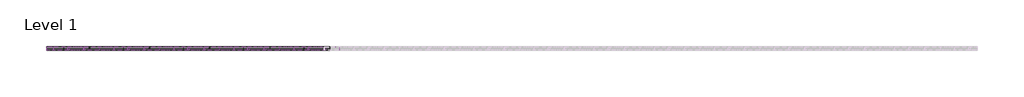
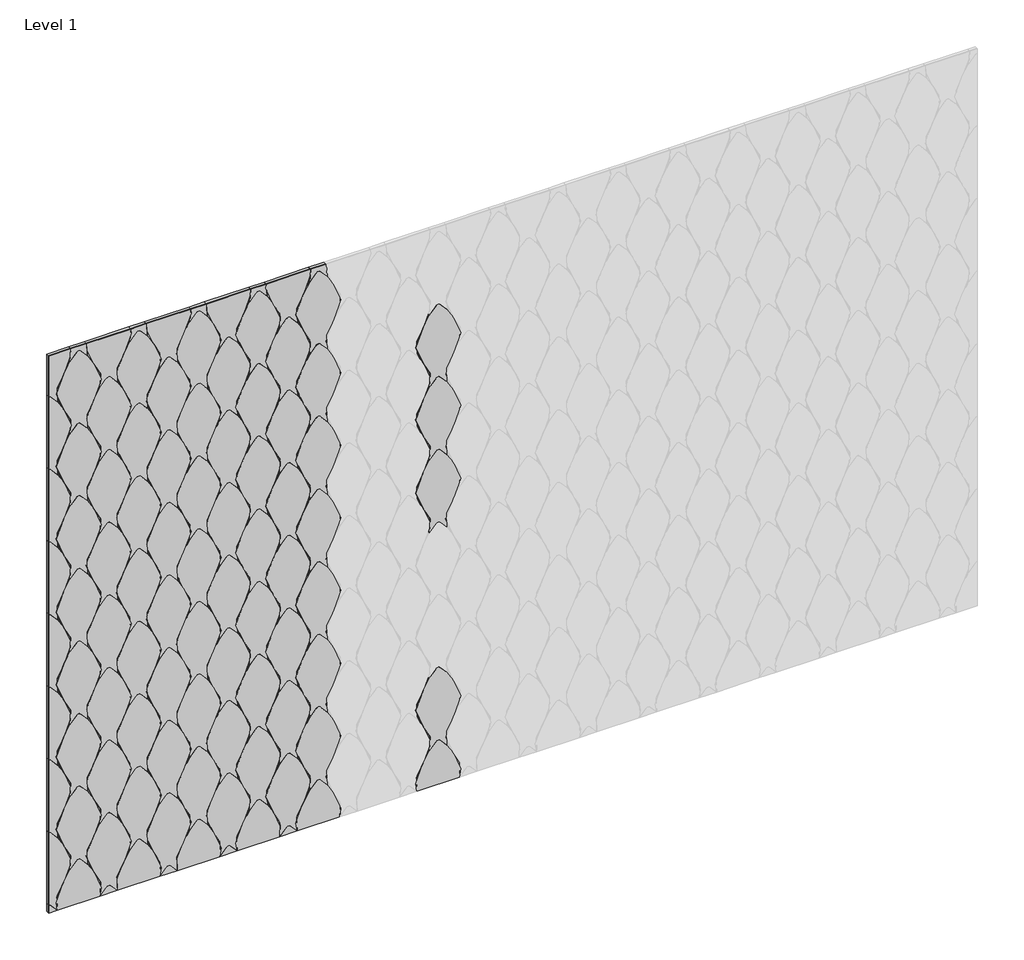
# One storey, part 1 of 3: 95 proxies.
"""IFC4 building model written with IfcOpenShell, lengths in millimetres."""

from ifc_helpers import new_model, si_unit, origin, place, context, project, spatial, transform, mapped, element, save
from components import specialty_equipment_90dfa3fd, specialty_equipment_1d57ec5c, specialty_equipment_d9d0cc40, specialty_equipment_04623bae, specialty_equipment_d667eb72, specialty_equipment_c66fb18b, specialty_equipment_58f33b70, specialty_equipment_77f5260d, specialty_equipment_34b07f8f, specialty_equipment_1d68d449, specialty_equipment_8d9a8f15, specialty_equipment_3b3f1b17, specialty_equipment_d7a9fa1d, specialty_equipment_a03a52e0, specialty_equipment_da839ed6

model = new_model("IFC4")

# Units and contexts
model_context = context("Model", 3, world=origin())
ifc_project = project(units=[si_unit("LENGTHUNIT", "METRE", prefix="MILLI")], contexts=[model_context])

# Site, building, storey
site = spatial("IfcSite", under=ifc_project)
building = spatial("IfcBuilding", under=site)
storey = spatial("IfcBuildingStorey", under=building, Name="Level 1", Elevation=0.0)

# Proxies
placement = place(None, origin())
specialty_equipment_shape = specialty_equipment_90dfa3fd(model_context)
element("IfcBuildingElementProxy", 1, Name="FilzFelt_Fish_Block : Fish Block", ObjectType="FilzFelt_Fish_Block : Fish Block", at=placement, inside=storey, context=model_context, shape_type="MappedRepresentation", body=[
    mapped(specialty_equipment_shape, transform((19600.3180418, 4010.4660665, 1941.1055095), x_axis=(1.0, 0.0, 0.0), y_axis=(0.0, 0.0, 1.0), z_axis=(0.0, -1.0, 0.0))),
])
element("IfcBuildingElementProxy", 2, Name="FilzFelt_Fish_Block : Fish Block", ObjectType="FilzFelt_Fish_Block : Fish Block", at=placement, inside=storey, context=model_context, shape_type="MappedRepresentation", body=[
    mapped(specialty_equipment_shape, transform((19600.3180418, 4010.4660665, 1666.6574563), x_axis=(1.0, 0.0, 0.0), y_axis=(0.0, 0.0, 1.0), z_axis=(0.0, -1.0, 0.0))),
])
element("IfcBuildingElementProxy", 3, Name="FilzFelt_Fish_Block : Fish Block", ObjectType="FilzFelt_Fish_Block : Fish Block", at=placement, inside=storey, context=model_context, shape_type="MappedRepresentation", body=[
    mapped(specialty_equipment_shape, transform((19600.3180418, 4010.4660665, 2215.5535626), x_axis=(1.0, 0.0, 0.0), y_axis=(0.0, 0.0, 1.0), z_axis=(0.0, -1.0, 0.0))),
])
element("IfcBuildingElementProxy", 4, Name="FilzFelt_Fish_Block : Fish Block", ObjectType="FilzFelt_Fish_Block : Fish Block", at=placement, inside=storey, context=model_context, shape_type="MappedRepresentation", body=[
    mapped(specialty_equipment_shape, transform((19600.3180418, 4010.4660665, 843.3132968), x_axis=(1.0, 0.0, 0.0), y_axis=(0.0, 0.0, 1.0), z_axis=(0.0, -1.0, 0.0))),
])
element("IfcBuildingElementProxy", 5, Name="FilzFelt_Fish_Block : Fish Block", ObjectType="FilzFelt_Fish_Block : Fish Block", at=placement, inside=storey, context=model_context, shape_type="MappedRepresentation", body=[
    mapped(specialty_equipment_shape, transform((19600.3180418, 4010.4660665, 1392.2094032), x_axis=(1.0, 0.0, 0.0), y_axis=(0.0, 0.0, 1.0), z_axis=(0.0, -1.0, 0.0))),
])
element("IfcBuildingElementProxy", 6, Name="FilzFelt_Fish_Block : Fish Block", ObjectType="FilzFelt_Fish_Block : Fish Block", at=placement, inside=storey, context=model_context, shape_type="MappedRepresentation", body=[
    mapped(specialty_equipment_shape, transform((19600.3180418, 4010.4660665, 1117.76135), x_axis=(1.0, 0.0, 0.0), y_axis=(0.0, 0.0, 1.0), z_axis=(0.0, -1.0, 0.0))),
])
element("IfcBuildingElementProxy", 7, Name="FilzFelt_Fish_Block : Fish Block", ObjectType="FilzFelt_Fish_Block : Fish Block", at=placement, inside=storey, context=model_context, shape_type="MappedRepresentation", body=[
    mapped(specialty_equipment_shape, transform((19707.4153332, 4010.4660665, 2352.7775892), x_axis=(1.0, 0.0, 0.0), y_axis=(0.0, 0.0, 1.0), z_axis=(0.0, -1.0, 0.0))),
])
element("IfcBuildingElementProxy", 8, Name="FilzFelt_Fish_Block : Fish Block", ObjectType="FilzFelt_Fish_Block : Fish Block", at=placement, inside=storey, context=model_context, shape_type="MappedRepresentation", body=[
    mapped(specialty_equipment_shape, transform((19707.4153332, 4010.4660665, 2078.329536), x_axis=(1.0, 0.0, 0.0), y_axis=(0.0, 0.0, 1.0), z_axis=(0.0, -1.0, 0.0))),
])
element("IfcBuildingElementProxy", 9, Name="FilzFelt_Fish_Block : Fish Block", ObjectType="FilzFelt_Fish_Block : Fish Block", at=placement, inside=storey, context=model_context, shape_type="MappedRepresentation", body=[
    mapped(specialty_equipment_shape, transform((19707.4153332, 4010.4660665, 1803.8814829), x_axis=(1.0, 0.0, 0.0), y_axis=(0.0, 0.0, 1.0), z_axis=(0.0, -1.0, 0.0))),
])
element("IfcBuildingElementProxy", 10, Name="FilzFelt_Fish_Block : Fish Block", ObjectType="FilzFelt_Fish_Block : Fish Block", at=placement, inside=storey, context=model_context, shape_type="MappedRepresentation", body=[
    mapped(specialty_equipment_shape, transform((19707.4153332, 4010.4660665, 1254.9853766), x_axis=(1.0, 0.0, 0.0), y_axis=(0.0, 0.0, 1.0), z_axis=(0.0, -1.0, 0.0))),
])
element("IfcBuildingElementProxy", 11, Name="FilzFelt_Fish_Block : Fish Block", ObjectType="FilzFelt_Fish_Block : Fish Block", at=placement, inside=storey, context=model_context, shape_type="MappedRepresentation", body=[
    mapped(specialty_equipment_shape, transform((19707.4153332, 4010.4660665, 980.5373234), x_axis=(1.0, 0.0, 0.0), y_axis=(0.0, 0.0, 1.0), z_axis=(0.0, -1.0, 0.0))),
])
element("IfcBuildingElementProxy", 12, Name="FilzFelt_Fish_Block : Fish Block", ObjectType="FilzFelt_Fish_Block : Fish Block", at=placement, inside=storey, context=model_context, shape_type="MappedRepresentation", body=[
    mapped(specialty_equipment_shape, transform((19707.4153332, 4010.4660665, 706.0892703), x_axis=(1.0, 0.0, 0.0), y_axis=(0.0, 0.0, 1.0), z_axis=(0.0, -1.0, 0.0))),
])
element("IfcBuildingElementProxy", 13, Name="FilzFelt_Fish_Block : Fish Block", ObjectType="FilzFelt_Fish_Block : Fish Block", at=placement, inside=storey, context=model_context, shape_type="MappedRepresentation", body=[
    mapped(specialty_equipment_shape, transform((20242.9017903, 4010.4660665, 1941.1055095), x_axis=(1.0, 0.0, 0.0), y_axis=(0.0, 0.0, 1.0), z_axis=(0.0, -1.0, 0.0))),
])
element("IfcBuildingElementProxy", 14, Name="FilzFelt_Fish_Block : Fish Block", ObjectType="FilzFelt_Fish_Block : Fish Block", at=placement, inside=storey, context=model_context, shape_type="MappedRepresentation", body=[
    mapped(specialty_equipment_shape, transform((20242.9017903, 4010.4660665, 1666.6574563), x_axis=(1.0, 0.0, 0.0), y_axis=(0.0, 0.0, 1.0), z_axis=(0.0, -1.0, 0.0))),
])
element("IfcBuildingElementProxy", 15, Name="FilzFelt_Fish_Block : Fish Block", ObjectType="FilzFelt_Fish_Block : Fish Block", at=placement, inside=storey, context=model_context, shape_type="MappedRepresentation", body=[
    mapped(specialty_equipment_shape, transform((20242.9017903, 4010.4660665, 843.3132968), x_axis=(1.0, 0.0, 0.0), y_axis=(0.0, 0.0, 1.0), z_axis=(0.0, -1.0, 0.0))),
])
element("IfcBuildingElementProxy", 16, Name="FilzFelt_Fish_Block : Fish Block", ObjectType="FilzFelt_Fish_Block : Fish Block", at=placement, inside=storey, context=model_context, shape_type="MappedRepresentation", body=[
    mapped(specialty_equipment_shape, transform((20242.9017903, 4010.4660665, 1392.2094032), x_axis=(1.0, 0.0, 0.0), y_axis=(0.0, 0.0, 1.0), z_axis=(0.0, -1.0, 0.0))),
])
element("IfcBuildingElementProxy", 17, Name="FilzFelt_Fish_Block : Fish Block", ObjectType="FilzFelt_Fish_Block : Fish Block", at=placement, inside=storey, context=model_context, shape_type="MappedRepresentation", body=[
    mapped(specialty_equipment_shape, transform((20135.8044989, 4010.4660665, 2352.7775892), x_axis=(1.0, 0.0, 0.0), y_axis=(0.0, 0.0, 1.0), z_axis=(0.0, -1.0, 0.0))),
])
element("IfcBuildingElementProxy", 18, Name="FilzFelt_Fish_Block : Fish Block", ObjectType="FilzFelt_Fish_Block : Fish Block", at=placement, inside=storey, context=model_context, shape_type="MappedRepresentation", body=[
    mapped(specialty_equipment_shape, transform((20135.8044989, 4010.4660665, 2078.329536), x_axis=(1.0, 0.0, 0.0), y_axis=(0.0, 0.0, 1.0), z_axis=(0.0, -1.0, 0.0))),
])
element("IfcBuildingElementProxy", 19, Name="FilzFelt_Fish_Block : Fish Block", ObjectType="FilzFelt_Fish_Block : Fish Block", at=placement, inside=storey, context=model_context, shape_type="MappedRepresentation", body=[
    mapped(specialty_equipment_shape, transform((20135.8044989, 4010.4660665, 1803.8814829), x_axis=(1.0, 0.0, 0.0), y_axis=(0.0, 0.0, 1.0), z_axis=(0.0, -1.0, 0.0))),
])
element("IfcBuildingElementProxy", 20, Name="FilzFelt_Fish_Block : Fish Block", ObjectType="FilzFelt_Fish_Block : Fish Block", at=placement, inside=storey, context=model_context, shape_type="MappedRepresentation", body=[
    mapped(specialty_equipment_shape, transform((20135.8044989, 4010.4660665, 1529.4334297), x_axis=(1.0, 0.0, 0.0), y_axis=(0.0, 0.0, 1.0), z_axis=(0.0, -1.0, 0.0))),
])
element("IfcBuildingElementProxy", 21, Name="FilzFelt_Fish_Block : Fish Block", ObjectType="FilzFelt_Fish_Block : Fish Block", at=placement, inside=storey, context=model_context, shape_type="MappedRepresentation", body=[
    mapped(specialty_equipment_shape, transform((20135.8044989, 4010.4660665, 1254.9853766), x_axis=(1.0, 0.0, 0.0), y_axis=(0.0, 0.0, 1.0), z_axis=(0.0, -1.0, 0.0))),
])
element("IfcBuildingElementProxy", 22, Name="FilzFelt_Fish_Block : Fish Block", ObjectType="FilzFelt_Fish_Block : Fish Block", at=placement, inside=storey, context=model_context, shape_type="MappedRepresentation", body=[
    mapped(specialty_equipment_shape, transform((20135.8044989, 4010.4660665, 980.5373234), x_axis=(1.0, 0.0, 0.0), y_axis=(0.0, 0.0, 1.0), z_axis=(0.0, -1.0, 0.0))),
])
element("IfcBuildingElementProxy", 23, Name="FilzFelt_Fish_Block : Fish Block", ObjectType="FilzFelt_Fish_Block : Fish Block", at=placement, inside=storey, context=model_context, shape_type="MappedRepresentation", body=[
    mapped(specialty_equipment_shape, transform((20135.8044989, 4010.4660665, 706.0892703), x_axis=(1.0, 0.0, 0.0), y_axis=(0.0, 0.0, 1.0), z_axis=(0.0, -1.0, 0.0))),
])
element("IfcBuildingElementProxy", 24, Name="FilzFelt_Fish_Block : Fish Block", ObjectType="FilzFelt_Fish_Block : Fish Block", at=placement, inside=storey, context=model_context, shape_type="MappedRepresentation", body=[
    mapped(specialty_equipment_shape, transform((20885.4855388, 4010.4660665, 1941.1055095), x_axis=(1.0, 0.0, 0.0), y_axis=(0.0, 0.0, 1.0), z_axis=(0.0, -1.0, 0.0))),
])
element("IfcBuildingElementProxy", 25, Name="FilzFelt_Fish_Block : Fish Block", ObjectType="FilzFelt_Fish_Block : Fish Block", at=placement, inside=storey, context=model_context, shape_type="MappedRepresentation", body=[
    mapped(specialty_equipment_shape, transform((20885.4855388, 4010.4660665, 1666.6574563), x_axis=(1.0, 0.0, 0.0), y_axis=(0.0, 0.0, 1.0), z_axis=(0.0, -1.0, 0.0))),
])
element("IfcBuildingElementProxy", 26, Name="FilzFelt_Fish_Block : Fish Block", ObjectType="FilzFelt_Fish_Block : Fish Block", at=placement, inside=storey, context=model_context, shape_type="MappedRepresentation", body=[
    mapped(specialty_equipment_shape, transform((20885.4855388, 4010.4660665, 2215.5535626), x_axis=(1.0, 0.0, 0.0), y_axis=(0.0, 0.0, 1.0), z_axis=(0.0, -1.0, 0.0))),
])
element("IfcBuildingElementProxy", 27, Name="FilzFelt_Fish_Block : Fish Block", ObjectType="FilzFelt_Fish_Block : Fish Block", at=placement, inside=storey, context=model_context, shape_type="MappedRepresentation", body=[
    mapped(specialty_equipment_shape, transform((20885.4855388, 4010.4660665, 843.3132968), x_axis=(1.0, 0.0, 0.0), y_axis=(0.0, 0.0, 1.0), z_axis=(0.0, -1.0, 0.0))),
])
specialty_equipment_2_shape = specialty_equipment_1d57ec5c(model_context)
element("IfcBuildingElementProxy", 28, Name="FilzFelt_Fish_Block : Fish Block", ObjectType="FilzFelt_Fish_Block : Fish Block", at=placement, inside=storey, context=model_context, shape_type="MappedRepresentation", body=[
    mapped(specialty_equipment_2_shape, transform((19600.3180418, 4010.4660665, 568.8652437), x_axis=(1.0, 0.0, 0.0), y_axis=(0.0, 0.0, 1.0), z_axis=(0.0, -1.0, 0.0))),
])
element("IfcBuildingElementProxy", 29, Name="FilzFelt_Fish_Block : Fish Block", ObjectType="FilzFelt_Fish_Block : Fish Block", at=placement, inside=storey, context=model_context, shape_type="MappedRepresentation", body=[
    mapped(specialty_equipment_2_shape, transform((20242.9017903, 4010.4660665, 568.8652437), x_axis=(1.0, 0.0, 0.0), y_axis=(0.0, 0.0, 1.0), z_axis=(0.0, -1.0, 0.0))),
])
element("IfcBuildingElementProxy", 30, Name="FilzFelt_Fish_Block : Fish Block", ObjectType="FilzFelt_Fish_Block : Fish Block", at=placement, inside=storey, context=model_context, shape_type="MappedRepresentation", body=[
    mapped(specialty_equipment_2_shape, transform((20885.4855388, 4010.4660665, 568.8652437), x_axis=(1.0, 0.0, 0.0), y_axis=(0.0, 0.0, 1.0), z_axis=(0.0, -1.0, 0.0))),
])
specialty_equipment_3_shape = specialty_equipment_d9d0cc40(model_context)
element("IfcBuildingElementProxy", 31, Name="FilzFelt_Fish_Block : Fish Block", ObjectType="FilzFelt_Fish_Block : Fish Block", at=placement, inside=storey, context=model_context, shape_type="MappedRepresentation", body=[
    mapped(specialty_equipment_3_shape, transform((19600.3180418, 4010.4660665, 2764.4496689), x_axis=(1.0, 0.0, 0.0), y_axis=(0.0, 0.0, 1.0), z_axis=(0.0, -1.0, 0.0))),
])
element("IfcBuildingElementProxy", 32, Name="FilzFelt_Fish_Block : Fish Block", ObjectType="FilzFelt_Fish_Block : Fish Block", at=placement, inside=storey, context=model_context, shape_type="MappedRepresentation", body=[
    mapped(specialty_equipment_3_shape, transform((20242.9017903, 4010.4660665, 2764.4496689), x_axis=(1.0, 0.0, 0.0), y_axis=(0.0, 0.0, 1.0), z_axis=(0.0, -1.0, 0.0))),
])
specialty_equipment_4_shape = specialty_equipment_04623bae(model_context)
element("IfcBuildingElementProxy", 33, Name="FilzFelt_Fish_Block : Fish Block", ObjectType="FilzFelt_Fish_Block : Fish Block", at=placement, inside=storey, context=model_context, shape_type="MappedRepresentation", body=[
    mapped(specialty_equipment_4_shape, transform((19493.2207503, 4010.4660665, 2627.2256423), x_axis=(1.0, 0.0, 0.0), y_axis=(0.0, 0.0, 1.0), z_axis=(0.0, -1.0, 0.0))),
])
specialty_equipment_5_shape = specialty_equipment_d667eb72(model_context)
element("IfcBuildingElementProxy", 34, Name="FilzFelt_Fish_Block : Fish Block", ObjectType="FilzFelt_Fish_Block : Fish Block", at=placement, inside=storey, context=model_context, shape_type="MappedRepresentation", body=[
    mapped(specialty_equipment_5_shape, transform((19493.2207503, 4010.4660665, 2352.7775892), x_axis=(1.0, 0.0, 0.0), y_axis=(0.0, 0.0, 1.0), z_axis=(0.0, -1.0, 0.0))),
])
element("IfcBuildingElementProxy", 35, Name="FilzFelt_Fish_Block : Fish Block", ObjectType="FilzFelt_Fish_Block : Fish Block", at=placement, inside=storey, context=model_context, shape_type="MappedRepresentation", body=[
    mapped(specialty_equipment_5_shape, transform((19493.2207503, 4010.4660665, 2078.329536), x_axis=(1.0, 0.0, 0.0), y_axis=(0.0, 0.0, 1.0), z_axis=(0.0, -1.0, 0.0))),
])
element("IfcBuildingElementProxy", 36, Name="FilzFelt_Fish_Block : Fish Block", ObjectType="FilzFelt_Fish_Block : Fish Block", at=placement, inside=storey, context=model_context, shape_type="MappedRepresentation", body=[
    mapped(specialty_equipment_5_shape, transform((19493.2207503, 4010.4660665, 1529.4334297), x_axis=(1.0, 0.0, 0.0), y_axis=(0.0, 0.0, 1.0), z_axis=(0.0, -1.0, 0.0))),
])
element("IfcBuildingElementProxy", 37, Name="FilzFelt_Fish_Block : Fish Block", ObjectType="FilzFelt_Fish_Block : Fish Block", at=placement, inside=storey, context=model_context, shape_type="MappedRepresentation", body=[
    mapped(specialty_equipment_5_shape, transform((19493.2207503, 4010.4660665, 1254.9853766), x_axis=(1.0, 0.0, 0.0), y_axis=(0.0, 0.0, 1.0), z_axis=(0.0, -1.0, 0.0))),
])
element("IfcBuildingElementProxy", 38, Name="FilzFelt_Fish_Block : Fish Block", ObjectType="FilzFelt_Fish_Block : Fish Block", at=placement, inside=storey, context=model_context, shape_type="MappedRepresentation", body=[
    mapped(specialty_equipment_5_shape, transform((19493.2207503, 4010.4660665, 980.5373234), x_axis=(1.0, 0.0, 0.0), y_axis=(0.0, 0.0, 1.0), z_axis=(0.0, -1.0, 0.0))),
])
element("IfcBuildingElementProxy", 39, Name="FilzFelt_Fish_Block : Fish Block", ObjectType="FilzFelt_Fish_Block : Fish Block", at=placement, inside=storey, context=model_context, shape_type="MappedRepresentation", body=[
    mapped(specialty_equipment_5_shape, transform((19493.2207503, 4010.4660665, 706.0892703), x_axis=(1.0, 0.0, 0.0), y_axis=(0.0, 0.0, 1.0), z_axis=(0.0, -1.0, 0.0))),
])
element("IfcBuildingElementProxy", 40, Name="FilzFelt_Fish_Block : Fish Block", ObjectType="FilzFelt_Fish_Block : Fish Block", at=placement, inside=storey, context=model_context, shape_type="MappedRepresentation", body=[
    mapped(specialty_equipment_5_shape, transform((19493.2207503, 4010.4660665, 1803.8814829), x_axis=(1.0, 0.0, 0.0), y_axis=(0.0, 0.0, 1.0), z_axis=(0.0, -1.0, 0.0))),
])
specialty_equipment_6_shape = specialty_equipment_c66fb18b(model_context)
element("IfcBuildingElementProxy", 41, Name="FilzFelt_Fish_Block : Fish Block", ObjectType="FilzFelt_Fish_Block : Fish Block", at=placement, inside=storey, context=model_context, shape_type="MappedRepresentation", body=[
    mapped(specialty_equipment_6_shape, transform((19493.2207503, 4010.4660665, 431.6412171), x_axis=(1.0, 0.0, 0.0), y_axis=(0.0, 0.0, 1.0), z_axis=(0.0, -1.0, 0.0))),
])
specialty_equipment_7_shape = specialty_equipment_58f33b70(model_context)
element("IfcBuildingElementProxy", 42, Name="FilzFelt_Fish_Block : Fish Block", ObjectType="FilzFelt_Fish_Block : Fish Block", at=placement, inside=storey, context=model_context, shape_type="MappedRepresentation", body=[
    mapped(specialty_equipment_7_shape, transform((19600.3180418, 4010.4660665, 2490.0016158), x_axis=(1.0, 0.0, 0.0), y_axis=(0.0, 0.0, 1.0), z_axis=(0.0, -1.0, 0.0))),
])
element("IfcBuildingElementProxy", 43, Name="FilzFelt_Fish_Block : Fish Block", ObjectType="FilzFelt_Fish_Block : Fish Block", at=placement, inside=storey, context=model_context, shape_type="MappedRepresentation", body=[
    mapped(specialty_equipment_7_shape, transform((20242.9017903, 4010.4660665, 2490.0016158), x_axis=(1.0, 0.0, 0.0), y_axis=(0.0, 0.0, 1.0), z_axis=(0.0, -1.0, 0.0))),
])
specialty_equipment_8_shape = specialty_equipment_77f5260d(model_context)
element("IfcBuildingElementProxy", 44, Name="FilzFelt_Fish_Block : Fish Block", ObjectType="FilzFelt_Fish_Block : Fish Block", at=placement, inside=storey, context=model_context, shape_type="MappedRepresentation", body=[
    mapped(specialty_equipment_8_shape, transform((19707.4153332, 4010.4660665, 2627.2256423), x_axis=(1.0, 0.0, 0.0), y_axis=(0.0, 0.0, 1.0), z_axis=(0.0, -1.0, 0.0))),
])
element("IfcBuildingElementProxy", 45, Name="FilzFelt_Fish_Block : Fish Block", ObjectType="FilzFelt_Fish_Block : Fish Block", at=placement, inside=storey, context=model_context, shape_type="MappedRepresentation", body=[
    mapped(specialty_equipment_shape, transform((19707.4153332, 4010.4660665, 1529.4334297), x_axis=(1.0, 0.0, 0.0), y_axis=(0.0, 0.0, 1.0), z_axis=(0.0, -1.0, 0.0))),
])
element("IfcBuildingElementProxy", 46, Name="FilzFelt_Fish_Block : Fish Block", ObjectType="FilzFelt_Fish_Block : Fish Block", at=placement, inside=storey, context=model_context, shape_type="MappedRepresentation", body=[
    mapped(specialty_equipment_shape, transform((20242.9017903, 4010.4660665, 2215.5535626), x_axis=(1.0, 0.0, 0.0), y_axis=(0.0, 0.0, 1.0), z_axis=(0.0, -1.0, 0.0))),
])
element("IfcBuildingElementProxy", 47, Name="FilzFelt_Fish_Block : Fish Block", ObjectType="FilzFelt_Fish_Block : Fish Block", at=placement, inside=storey, context=model_context, shape_type="MappedRepresentation", body=[
    mapped(specialty_equipment_shape, transform((20242.9017903, 4010.4660665, 1117.76135), x_axis=(1.0, 0.0, 0.0), y_axis=(0.0, 0.0, 1.0), z_axis=(0.0, -1.0, 0.0))),
])
specialty_equipment_9_shape = specialty_equipment_34b07f8f(model_context)
element("IfcBuildingElementProxy", 48, Name="FilzFelt_Fish_Block : Fish Block", ObjectType="FilzFelt_Fish_Block : Fish Block", at=placement, inside=storey, context=model_context, shape_type="MappedRepresentation", body=[
    mapped(specialty_equipment_9_shape, transform((19707.4153332, 4010.4660665, 431.6364423), x_axis=(1.0, 0.0, 0.0), y_axis=(0.0, 0.0, 1.0), z_axis=(0.0, -1.0, 0.0))),
])
specialty_equipment_10_shape = specialty_equipment_1d68d449(model_context)
element("IfcBuildingElementProxy", 49, Name="FilzFelt_Fish_Block : Fish Block", ObjectType="FilzFelt_Fish_Block : Fish Block", at=placement, inside=storey, context=model_context, shape_type="MappedRepresentation", body=[
    mapped(specialty_equipment_10_shape, transform((19814.5126246, 4010.4660665, 1941.1055095), x_axis=(-1.0, 0.0, 0.0), y_axis=(0.0, 0.0, -1.0), z_axis=(0.0, -1.0, 0.0))),
])
element("IfcBuildingElementProxy", 50, Name="FilzFelt_Fish_Block : Fish Block", ObjectType="FilzFelt_Fish_Block : Fish Block", at=placement, inside=storey, context=model_context, shape_type="MappedRepresentation", body=[
    mapped(specialty_equipment_10_shape, transform((19814.5126246, 4010.4660665, 1666.6574563), x_axis=(-1.0, 0.0, 0.0), y_axis=(0.0, 0.0, -1.0), z_axis=(0.0, -1.0, 0.0))),
])
element("IfcBuildingElementProxy", 51, Name="FilzFelt_Fish_Block : Fish Block", ObjectType="FilzFelt_Fish_Block : Fish Block", at=placement, inside=storey, context=model_context, shape_type="MappedRepresentation", body=[
    mapped(specialty_equipment_10_shape, transform((19814.5126246, 4010.4660665, 2215.5535626), x_axis=(-1.0, 0.0, 0.0), y_axis=(0.0, 0.0, -1.0), z_axis=(0.0, -1.0, 0.0))),
])
element("IfcBuildingElementProxy", 52, Name="FilzFelt_Fish_Block : Fish Block", ObjectType="FilzFelt_Fish_Block : Fish Block", at=placement, inside=storey, context=model_context, shape_type="MappedRepresentation", body=[
    mapped(specialty_equipment_10_shape, transform((19814.5126246, 4010.4660665, 843.3132968), x_axis=(-1.0, 0.0, 0.0), y_axis=(0.0, 0.0, -1.0), z_axis=(0.0, -1.0, 0.0))),
])
element("IfcBuildingElementProxy", 53, Name="FilzFelt_Fish_Block : Fish Block", ObjectType="FilzFelt_Fish_Block : Fish Block", at=placement, inside=storey, context=model_context, shape_type="MappedRepresentation", body=[
    mapped(specialty_equipment_10_shape, transform((19814.5126246, 4010.4660665, 1392.2094032), x_axis=(-1.0, 0.0, 0.0), y_axis=(0.0, 0.0, -1.0), z_axis=(0.0, -1.0, 0.0))),
])
element("IfcBuildingElementProxy", 54, Name="FilzFelt_Fish_Block : Fish Block", ObjectType="FilzFelt_Fish_Block : Fish Block", at=placement, inside=storey, context=model_context, shape_type="MappedRepresentation", body=[
    mapped(specialty_equipment_10_shape, transform((19814.5126246, 4010.4660665, 1117.76135), x_axis=(-1.0, 0.0, 0.0), y_axis=(0.0, 0.0, -1.0), z_axis=(0.0, -1.0, 0.0))),
])
element("IfcBuildingElementProxy", 55, Name="FilzFelt_Fish_Block : Fish Block", ObjectType="FilzFelt_Fish_Block : Fish Block", at=placement, inside=storey, context=model_context, shape_type="MappedRepresentation", body=[
    mapped(specialty_equipment_10_shape, transform((20028.7072074, 4010.4660665, 1941.1055095), x_axis=(-1.0, 0.0, 0.0), y_axis=(0.0, 0.0, -1.0), z_axis=(0.0, -1.0, 0.0))),
])
element("IfcBuildingElementProxy", 56, Name="FilzFelt_Fish_Block : Fish Block", ObjectType="FilzFelt_Fish_Block : Fish Block", at=placement, inside=storey, context=model_context, shape_type="MappedRepresentation", body=[
    mapped(specialty_equipment_10_shape, transform((20028.7072074, 4010.4660665, 2215.5535626), x_axis=(-1.0, 0.0, 0.0), y_axis=(0.0, 0.0, -1.0), z_axis=(0.0, -1.0, 0.0))),
])
element("IfcBuildingElementProxy", 57, Name="FilzFelt_Fish_Block : Fish Block", ObjectType="FilzFelt_Fish_Block : Fish Block", at=placement, inside=storey, context=model_context, shape_type="MappedRepresentation", body=[
    mapped(specialty_equipment_10_shape, transform((20028.7072074, 4010.4660665, 843.3132968), x_axis=(-1.0, 0.0, 0.0), y_axis=(0.0, 0.0, -1.0), z_axis=(0.0, -1.0, 0.0))),
])
element("IfcBuildingElementProxy", 58, Name="FilzFelt_Fish_Block : Fish Block", ObjectType="FilzFelt_Fish_Block : Fish Block", at=placement, inside=storey, context=model_context, shape_type="MappedRepresentation", body=[
    mapped(specialty_equipment_10_shape, transform((20028.7072074, 4010.4660665, 1392.2094032), x_axis=(-1.0, 0.0, 0.0), y_axis=(0.0, 0.0, -1.0), z_axis=(0.0, -1.0, 0.0))),
])
element("IfcBuildingElementProxy", 59, Name="FilzFelt_Fish_Block : Fish Block", ObjectType="FilzFelt_Fish_Block : Fish Block", at=placement, inside=storey, context=model_context, shape_type="MappedRepresentation", body=[
    mapped(specialty_equipment_10_shape, transform((20028.7072074, 4010.4660665, 1117.76135), x_axis=(-1.0, 0.0, 0.0), y_axis=(0.0, 0.0, -1.0), z_axis=(0.0, -1.0, 0.0))),
])
element("IfcBuildingElementProxy", 60, Name="FilzFelt_Fish_Block : Fish Block", ObjectType="FilzFelt_Fish_Block : Fish Block", at=placement, inside=storey, context=model_context, shape_type="MappedRepresentation", body=[
    mapped(specialty_equipment_10_shape, transform((19921.609916, 4010.4660665, 2352.7775892), x_axis=(-1.0, 0.0, 0.0), y_axis=(0.0, 0.0, -1.0), z_axis=(0.0, -1.0, 0.0))),
])
element("IfcBuildingElementProxy", 61, Name="FilzFelt_Fish_Block : Fish Block", ObjectType="FilzFelt_Fish_Block : Fish Block", at=placement, inside=storey, context=model_context, shape_type="MappedRepresentation", body=[
    mapped(specialty_equipment_10_shape, transform((19921.609916, 4010.4660665, 1803.8814829), x_axis=(-1.0, 0.0, 0.0), y_axis=(0.0, 0.0, -1.0), z_axis=(0.0, -1.0, 0.0))),
])
element("IfcBuildingElementProxy", 62, Name="FilzFelt_Fish_Block : Fish Block", ObjectType="FilzFelt_Fish_Block : Fish Block", at=placement, inside=storey, context=model_context, shape_type="MappedRepresentation", body=[
    mapped(specialty_equipment_10_shape, transform((19921.609916, 4010.4660665, 1529.4334297), x_axis=(-1.0, 0.0, 0.0), y_axis=(0.0, 0.0, -1.0), z_axis=(0.0, -1.0, 0.0))),
])
element("IfcBuildingElementProxy", 63, Name="FilzFelt_Fish_Block : Fish Block", ObjectType="FilzFelt_Fish_Block : Fish Block", at=placement, inside=storey, context=model_context, shape_type="MappedRepresentation", body=[
    mapped(specialty_equipment_10_shape, transform((19921.609916, 4010.4660665, 1254.9853766), x_axis=(-1.0, 0.0, 0.0), y_axis=(0.0, 0.0, -1.0), z_axis=(0.0, -1.0, 0.0))),
])
element("IfcBuildingElementProxy", 64, Name="FilzFelt_Fish_Block : Fish Block", ObjectType="FilzFelt_Fish_Block : Fish Block", at=placement, inside=storey, context=model_context, shape_type="MappedRepresentation", body=[
    mapped(specialty_equipment_10_shape, transform((19921.609916, 4010.4660665, 706.0892703), x_axis=(-1.0, 0.0, 0.0), y_axis=(0.0, 0.0, -1.0), z_axis=(0.0, -1.0, 0.0))),
])
element("IfcBuildingElementProxy", 65, Name="FilzFelt_Fish_Block : Fish Block", ObjectType="FilzFelt_Fish_Block : Fish Block", at=placement, inside=storey, context=model_context, shape_type="MappedRepresentation", body=[
    mapped(specialty_equipment_10_shape, transform((20457.0963731, 4010.4660665, 1941.1055095), x_axis=(-1.0, 0.0, 0.0), y_axis=(0.0, 0.0, -1.0), z_axis=(0.0, -1.0, 0.0))),
])
element("IfcBuildingElementProxy", 66, Name="FilzFelt_Fish_Block : Fish Block", ObjectType="FilzFelt_Fish_Block : Fish Block", at=placement, inside=storey, context=model_context, shape_type="MappedRepresentation", body=[
    mapped(specialty_equipment_10_shape, transform((20457.0963731, 4010.4660665, 1666.6574563), x_axis=(-1.0, 0.0, 0.0), y_axis=(0.0, 0.0, -1.0), z_axis=(0.0, -1.0, 0.0))),
])
element("IfcBuildingElementProxy", 67, Name="FilzFelt_Fish_Block : Fish Block", ObjectType="FilzFelt_Fish_Block : Fish Block", at=placement, inside=storey, context=model_context, shape_type="MappedRepresentation", body=[
    mapped(specialty_equipment_10_shape, transform((20457.0963731, 4010.4660665, 2215.5535626), x_axis=(-1.0, 0.0, 0.0), y_axis=(0.0, 0.0, -1.0), z_axis=(0.0, -1.0, 0.0))),
])
element("IfcBuildingElementProxy", 68, Name="FilzFelt_Fish_Block : Fish Block", ObjectType="FilzFelt_Fish_Block : Fish Block", at=placement, inside=storey, context=model_context, shape_type="MappedRepresentation", body=[
    mapped(specialty_equipment_10_shape, transform((20457.0963731, 4010.4660665, 843.3132968), x_axis=(-1.0, 0.0, 0.0), y_axis=(0.0, 0.0, -1.0), z_axis=(0.0, -1.0, 0.0))),
])
element("IfcBuildingElementProxy", 69, Name="FilzFelt_Fish_Block : Fish Block", ObjectType="FilzFelt_Fish_Block : Fish Block", at=placement, inside=storey, context=model_context, shape_type="MappedRepresentation", body=[
    mapped(specialty_equipment_10_shape, transform((20457.0963731, 4010.4660665, 1392.2094032), x_axis=(-1.0, 0.0, 0.0), y_axis=(0.0, 0.0, -1.0), z_axis=(0.0, -1.0, 0.0))),
])
element("IfcBuildingElementProxy", 70, Name="FilzFelt_Fish_Block : Fish Block", ObjectType="FilzFelt_Fish_Block : Fish Block", at=placement, inside=storey, context=model_context, shape_type="MappedRepresentation", body=[
    mapped(specialty_equipment_10_shape, transform((20457.0963731, 4010.4660665, 1117.76135), x_axis=(-1.0, 0.0, 0.0), y_axis=(0.0, 0.0, -1.0), z_axis=(0.0, -1.0, 0.0))),
])
element("IfcBuildingElementProxy", 71, Name="FilzFelt_Fish_Block : Fish Block", ObjectType="FilzFelt_Fish_Block : Fish Block", at=placement, inside=storey, context=model_context, shape_type="MappedRepresentation", body=[
    mapped(specialty_equipment_10_shape, transform((20349.9990817, 4010.4660665, 2352.7775892), x_axis=(-1.0, 0.0, 0.0), y_axis=(0.0, 0.0, -1.0), z_axis=(0.0, -1.0, 0.0))),
])
element("IfcBuildingElementProxy", 72, Name="FilzFelt_Fish_Block : Fish Block", ObjectType="FilzFelt_Fish_Block : Fish Block", at=placement, inside=storey, context=model_context, shape_type="MappedRepresentation", body=[
    mapped(specialty_equipment_10_shape, transform((20349.9990817, 4010.4660665, 2078.329536), x_axis=(-1.0, 0.0, 0.0), y_axis=(0.0, 0.0, -1.0), z_axis=(0.0, -1.0, 0.0))),
])
element("IfcBuildingElementProxy", 73, Name="FilzFelt_Fish_Block : Fish Block", ObjectType="FilzFelt_Fish_Block : Fish Block", at=placement, inside=storey, context=model_context, shape_type="MappedRepresentation", body=[
    mapped(specialty_equipment_10_shape, transform((20349.9990817, 4010.4660665, 1803.8814829), x_axis=(-1.0, 0.0, 0.0), y_axis=(0.0, 0.0, -1.0), z_axis=(0.0, -1.0, 0.0))),
])
element("IfcBuildingElementProxy", 74, Name="FilzFelt_Fish_Block : Fish Block", ObjectType="FilzFelt_Fish_Block : Fish Block", at=placement, inside=storey, context=model_context, shape_type="MappedRepresentation", body=[
    mapped(specialty_equipment_10_shape, transform((20349.9990817, 4010.4660665, 1254.9853766), x_axis=(-1.0, 0.0, 0.0), y_axis=(0.0, 0.0, -1.0), z_axis=(0.0, -1.0, 0.0))),
])
element("IfcBuildingElementProxy", 75, Name="FilzFelt_Fish_Block : Fish Block", ObjectType="FilzFelt_Fish_Block : Fish Block", at=placement, inside=storey, context=model_context, shape_type="MappedRepresentation", body=[
    mapped(specialty_equipment_10_shape, transform((20349.9990817, 4010.4660665, 980.5373234), x_axis=(-1.0, 0.0, 0.0), y_axis=(0.0, 0.0, -1.0), z_axis=(0.0, -1.0, 0.0))),
])
element("IfcBuildingElementProxy", 76, Name="FilzFelt_Fish_Block : Fish Block", ObjectType="FilzFelt_Fish_Block : Fish Block", at=placement, inside=storey, context=model_context, shape_type="MappedRepresentation", body=[
    mapped(specialty_equipment_10_shape, transform((20349.9990817, 4010.4660665, 706.0892703), x_axis=(-1.0, 0.0, 0.0), y_axis=(0.0, 0.0, -1.0), z_axis=(0.0, -1.0, 0.0))),
])
specialty_equipment_11_shape = specialty_equipment_8d9a8f15(model_context)
element("IfcBuildingElementProxy", 77, Name="FilzFelt_Fish_Block : Fish Block", ObjectType="FilzFelt_Fish_Block : Fish Block", at=placement, inside=storey, context=model_context, shape_type="MappedRepresentation", body=[
    mapped(specialty_equipment_11_shape, transform((19814.5126246, 4010.4660665, 568.8652437), x_axis=(-1.0, 0.0, 0.0), y_axis=(0.0, 0.0, -1.0), z_axis=(0.0, -1.0, 0.0))),
])
element("IfcBuildingElementProxy", 78, Name="FilzFelt_Fish_Block : Fish Block", ObjectType="FilzFelt_Fish_Block : Fish Block", at=placement, inside=storey, context=model_context, shape_type="MappedRepresentation", body=[
    mapped(specialty_equipment_11_shape, transform((20457.0963731, 4010.4660665, 568.8652437), x_axis=(-1.0, 0.0, 0.0), y_axis=(0.0, 0.0, -1.0), z_axis=(0.0, -1.0, 0.0))),
])
specialty_equipment_12_shape = specialty_equipment_3b3f1b17(model_context)
element("IfcBuildingElementProxy", 79, Name="FilzFelt_Fish_Block : Fish Block", ObjectType="FilzFelt_Fish_Block : Fish Block", at=placement, inside=storey, context=model_context, shape_type="MappedRepresentation", body=[
    mapped(specialty_equipment_12_shape, transform((19814.5126246, 4010.4660665, 2764.4496689), x_axis=(-1.0, 0.0, 0.0), y_axis=(0.0, 0.0, -1.0), z_axis=(0.0, -1.0, 0.0))),
])
element("IfcBuildingElementProxy", 80, Name="FilzFelt_Fish_Block : Fish Block", ObjectType="FilzFelt_Fish_Block : Fish Block", at=placement, inside=storey, context=model_context, shape_type="MappedRepresentation", body=[
    mapped(specialty_equipment_12_shape, transform((20028.7072074, 4010.4660665, 2764.4496689), x_axis=(-1.0, 0.0, 0.0), y_axis=(0.0, 0.0, -1.0), z_axis=(0.0, -1.0, 0.0))),
])
element("IfcBuildingElementProxy", 81, Name="FilzFelt_Fish_Block : Fish Block", ObjectType="FilzFelt_Fish_Block : Fish Block", at=placement, inside=storey, context=model_context, shape_type="MappedRepresentation", body=[
    mapped(specialty_equipment_12_shape, transform((20457.0963731, 4010.4660665, 2764.4496689), x_axis=(-1.0, 0.0, 0.0), y_axis=(0.0, 0.0, -1.0), z_axis=(0.0, -1.0, 0.0))),
])
specialty_equipment_13_shape = specialty_equipment_d7a9fa1d(model_context)
element("IfcBuildingElementProxy", 82, Name="FilzFelt_Fish_Block : Fish Block", ObjectType="FilzFelt_Fish_Block : Fish Block", at=placement, inside=storey, context=model_context, shape_type="MappedRepresentation", body=[
    mapped(specialty_equipment_13_shape, transform((19814.5126246, 4010.4660665, 2490.0016158), x_axis=(-1.0, 0.0, 0.0), y_axis=(0.0, 0.0, -1.0), z_axis=(0.0, -1.0, 0.0))),
])
element("IfcBuildingElementProxy", 83, Name="FilzFelt_Fish_Block : Fish Block", ObjectType="FilzFelt_Fish_Block : Fish Block", at=placement, inside=storey, context=model_context, shape_type="MappedRepresentation", body=[
    mapped(specialty_equipment_13_shape, transform((20028.7072074, 4010.4660665, 2490.0016158), x_axis=(-1.0, 0.0, 0.0), y_axis=(0.0, 0.0, -1.0), z_axis=(0.0, -1.0, 0.0))),
])
element("IfcBuildingElementProxy", 84, Name="FilzFelt_Fish_Block : Fish Block", ObjectType="FilzFelt_Fish_Block : Fish Block", at=placement, inside=storey, context=model_context, shape_type="MappedRepresentation", body=[
    mapped(specialty_equipment_13_shape, transform((20457.0963731, 4010.4660665, 2490.0016158), x_axis=(-1.0, 0.0, 0.0), y_axis=(0.0, 0.0, -1.0), z_axis=(0.0, -1.0, 0.0))),
])
element("IfcBuildingElementProxy", 85, Name="FilzFelt_Fish_Block : Fish Block", ObjectType="FilzFelt_Fish_Block : Fish Block", at=placement, inside=storey, context=model_context, shape_type="MappedRepresentation", body=[
    mapped(specialty_equipment_10_shape, transform((20028.7072074, 4010.4660665, 1666.6574563), x_axis=(-1.0, 0.0, 0.0), y_axis=(0.0, 0.0, -1.0), z_axis=(0.0, -1.0, 0.0))),
])
element("IfcBuildingElementProxy", 86, Name="FilzFelt_Fish_Block : Fish Block", ObjectType="FilzFelt_Fish_Block : Fish Block", at=placement, inside=storey, context=model_context, shape_type="MappedRepresentation", body=[
    mapped(specialty_equipment_10_shape, transform((19921.609916, 4010.4660665, 2078.329536), x_axis=(-1.0, 0.0, 0.0), y_axis=(0.0, 0.0, -1.0), z_axis=(0.0, -1.0, 0.0))),
])
element("IfcBuildingElementProxy", 87, Name="FilzFelt_Fish_Block : Fish Block", ObjectType="FilzFelt_Fish_Block : Fish Block", at=placement, inside=storey, context=model_context, shape_type="MappedRepresentation", body=[
    mapped(specialty_equipment_10_shape, transform((19921.609916, 4010.4660665, 980.5373234), x_axis=(-1.0, 0.0, 0.0), y_axis=(0.0, 0.0, -1.0), z_axis=(0.0, -1.0, 0.0))),
])
element("IfcBuildingElementProxy", 88, Name="FilzFelt_Fish_Block : Fish Block", ObjectType="FilzFelt_Fish_Block : Fish Block", at=placement, inside=storey, context=model_context, shape_type="MappedRepresentation", body=[
    mapped(specialty_equipment_10_shape, transform((20349.9990817, 4010.4660665, 1529.4334297), x_axis=(-1.0, 0.0, 0.0), y_axis=(0.0, 0.0, -1.0), z_axis=(0.0, -1.0, 0.0))),
])
element("IfcBuildingElementProxy", 89, Name="FilzFelt_Fish_Block : Fish Block", ObjectType="FilzFelt_Fish_Block : Fish Block", at=placement, inside=storey, context=model_context, shape_type="MappedRepresentation", body=[
    mapped(specialty_equipment_11_shape, transform((20028.7072074, 4010.4660665, 568.8652437), x_axis=(-1.0, 0.0, 0.0), y_axis=(0.0, 0.0, -1.0), z_axis=(0.0, -1.0, 0.0))),
])
specialty_equipment_14_shape = specialty_equipment_a03a52e0(model_context)
element("IfcBuildingElementProxy", 90, Name="FilzFelt_Fish_Block : Fish Block", ObjectType="FilzFelt_Fish_Block : Fish Block", at=placement, inside=storey, context=model_context, shape_type="MappedRepresentation", body=[
    mapped(specialty_equipment_14_shape, transform((19921.609916, 4010.4660665, 2627.2256423), x_axis=(-1.0, 0.0, 0.0), y_axis=(0.0, 0.0, -1.0), z_axis=(0.0, -1.0, 0.0))),
])
specialty_equipment_15_shape = specialty_equipment_da839ed6(model_context)
element("IfcBuildingElementProxy", 91, Name="FilzFelt_Fish_Block : Fish Block", ObjectType="FilzFelt_Fish_Block : Fish Block", at=placement, inside=storey, context=model_context, shape_type="MappedRepresentation", body=[
    mapped(specialty_equipment_15_shape, transform((19921.609916, 4010.4660665, 431.6364423), x_axis=(-1.0, 0.0, 0.0), y_axis=(0.0, 0.0, -1.0), z_axis=(0.0, -1.0, 0.0))),
])
element("IfcBuildingElementProxy", 92, Name="FilzFelt_Fish_Block : Fish Block", ObjectType="FilzFelt_Fish_Block : Fish Block", at=placement, inside=storey, context=model_context, shape_type="MappedRepresentation", body=[
    mapped(specialty_equipment_14_shape, transform((20349.9990817, 4010.4660665, 2627.2256423), x_axis=(-1.0, 0.0, 0.0), y_axis=(0.0, 0.0, -1.0), z_axis=(0.0, -1.0, 0.0))),
])
element("IfcBuildingElementProxy", 93, Name="FilzFelt_Fish_Block : Fish Block", ObjectType="FilzFelt_Fish_Block : Fish Block", at=placement, inside=storey, context=model_context, shape_type="MappedRepresentation", body=[
    mapped(specialty_equipment_15_shape, transform((20349.9990817, 4010.4660665, 431.6364423), x_axis=(-1.0, 0.0, 0.0), y_axis=(0.0, 0.0, -1.0), z_axis=(0.0, -1.0, 0.0))),
])
element("IfcBuildingElementProxy", 94, Name="FilzFelt_Fish_Block : Fish Block", ObjectType="FilzFelt_Fish_Block : Fish Block", at=placement, inside=storey, context=model_context, shape_type="MappedRepresentation", body=[
    mapped(specialty_equipment_8_shape, transform((20135.8044989, 4010.4660665, 2627.2256423), x_axis=(1.0, 0.0, 0.0), y_axis=(0.0, 0.0, 1.0), z_axis=(0.0, -1.0, 0.0))),
])
element("IfcBuildingElementProxy", 95, Name="FilzFelt_Fish_Block : Fish Block", ObjectType="FilzFelt_Fish_Block : Fish Block", at=placement, inside=storey, context=model_context, shape_type="MappedRepresentation", body=[
    mapped(specialty_equipment_9_shape, transform((20135.8044989, 4010.4660665, 431.6364423), x_axis=(1.0, 0.0, 0.0), y_axis=(0.0, 0.0, 1.0), z_axis=(0.0, -1.0, 0.0))),
])

save(model, "model.ifc")
